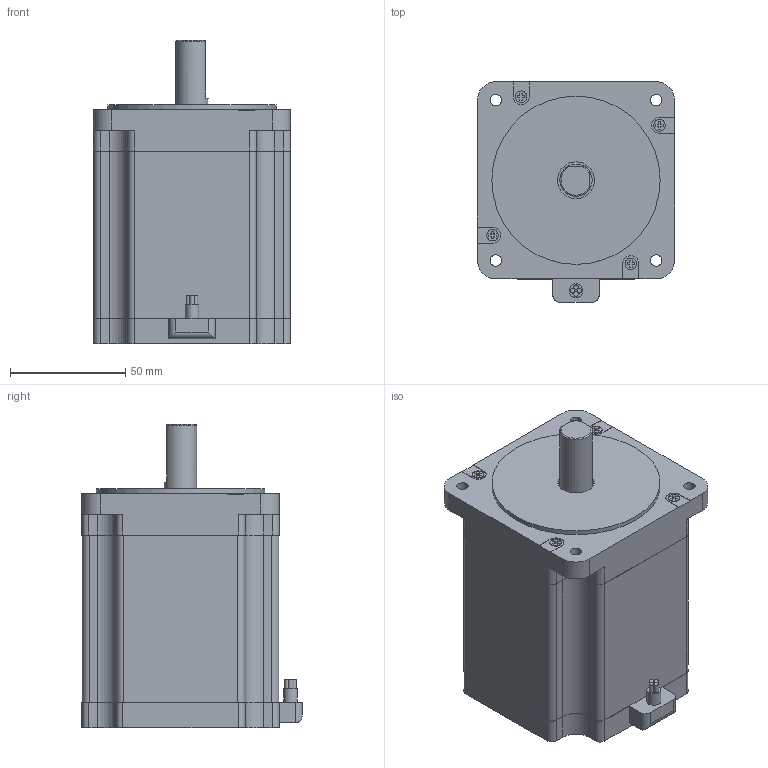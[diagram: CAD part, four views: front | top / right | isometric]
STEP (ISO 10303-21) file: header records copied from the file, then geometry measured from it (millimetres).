
FILE_DESCRIPTION(/* description */ (''),/* implementation_level */ '2;1');
FILE_NAME(/* name */ 'SST86D3605.stp',/* time_stamp */ '2018-08-16T10:50:07+08:00',/* author */ (''),/* organization */ (''),/* preprocessor_version */ 'ST-DEVELOPER v11',/* originating_system */ 'SIEMENS UGS NX 6.0',/* authorisation */ '');
FILE_SCHEMA (('CONFIG_CONTROL_DESIGN'));
Length unit declared in the file: millimetre
Products named in the file (1): SST86D3605
Bounding box: 85.5 x 95.5 x 131.5 mm (x, y, z)
Volume: 675433.7 mm3; surface area: 50133.5 mm2
Topology: 1 solids, 1 shells, 195 faces, 528 edges, 354 vertices
Faces by surface type: plane 129, cylinder 64, torus 2
Full cylindrical faces by diameter (mm): 2 x4, 5 x8, 6 x1, 14 x2, 16 x1, 73.025 x1
Entity records: 6141 total; most frequent: CARTESIAN_POINT 1115, DIRECTION 1021, ORIENTED_EDGE 1004, EDGE_CURVE 502, LINE 367, VECTOR 367, VERTEX_POINT 345, AXIS2_PLACEMENT_3D 327
